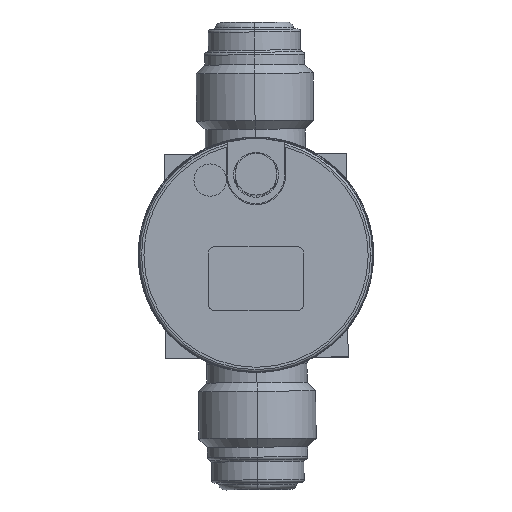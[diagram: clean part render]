
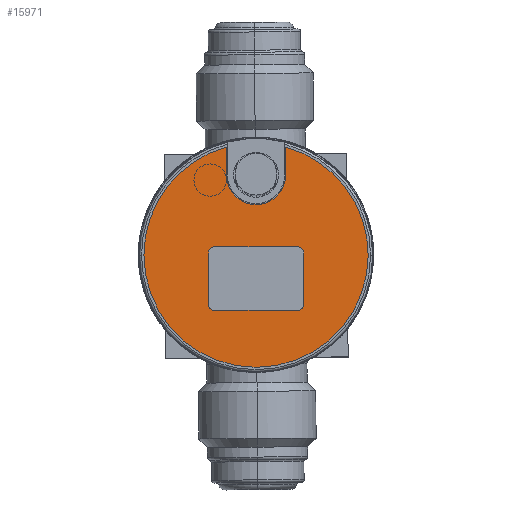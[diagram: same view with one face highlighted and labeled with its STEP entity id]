
A CAD part, top view. The second image highlights one B-rep face of the part: STEP entity #15971.
In plain terms, the highlighted planar face has unit normal (0, 0, 1).
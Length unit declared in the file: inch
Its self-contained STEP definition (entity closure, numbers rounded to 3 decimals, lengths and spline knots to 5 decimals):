
#663 = FACE_BOUND ( 'NONE', #19620, .T. ) ;
#672 = FACE_OUTER_BOUND ( 'NONE', #19600, .T. ) ;
#1140 = CARTESIAN_POINT ( 'NONE',  ( -0.228, 0.01, 0.193 ) ) ;
#1141 = CARTESIAN_POINT ( 'NONE',  ( 0.1425, 0.385, 0.193 ) ) ;
#1143 = CARTESIAN_POINT ( 'NONE',  ( -0.1425, 0.51827, 0.193 ) ) ;
#1147 = CARTESIAN_POINT ( 'NONE',  ( -0.198, -0.265, 0.193 ) ) ;
#1156 = CARTESIAN_POINT ( 'NONE',  ( 0.5375, 0., 0.193 ) ) ;
#1164 = CARTESIAN_POINT ( 'NONE',  ( 0.198, 0.04, 0.193 ) ) ;
#1166 = CARTESIAN_POINT ( 'NONE',  ( 0.228, 0.01, 0.193 ) ) ;
#1168 = CARTESIAN_POINT ( 'NONE',  ( 0.1425, 0.51827, 0.193 ) ) ;
#1171 = CARTESIAN_POINT ( 'NONE',  ( 0.198, -0.265, 0.193 ) ) ;
#1190 = CARTESIAN_POINT ( 'NONE',  ( -0.228, -0.235, 0.193 ) ) ;
#1193 = CARTESIAN_POINT ( 'NONE',  ( -0.1425, 0.385, 0.193 ) ) ;
#1202 = CARTESIAN_POINT ( 'NONE',  ( -0.198, 0.04, 0.193 ) ) ;
#1223 = CARTESIAN_POINT ( 'NONE',  ( -0.5375, 0., 0.193 ) ) ;
#1240 = CARTESIAN_POINT ( 'NONE',  ( 0.228, -0.235, 0.193 ) ) ;
#5706 = AXIS2_PLACEMENT_3D ( 'NONE', #31262, #31270, #31230 ) ;
#5718 = AXIS2_PLACEMENT_3D ( 'NONE', #31311, #31313, #31314 ) ;
#5719 = AXIS2_PLACEMENT_3D ( 'NONE', #31155, #31169, #31177 ) ;
#5741 = AXIS2_PLACEMENT_3D ( 'NONE', #31091, #31086, #31082 ) ;
#5743 = AXIS2_PLACEMENT_3D ( 'NONE', #31179, #31205, #31221 ) ;
#5761 = AXIS2_PLACEMENT_3D ( 'NONE', #31335, #31298, #31329 ) ;
#5781 = AXIS2_PLACEMENT_3D ( 'NONE', #31526, #31563, #31593 ) ;
#5782 = AXIS2_PLACEMENT_3D ( 'NONE', #31519, #31510, #31520 ) ;
#7078 = DIRECTION ( 'NONE',  ( 1., 0., 0. ) ) ;
#7106 = CARTESIAN_POINT ( 'NONE',  ( 0., 0., 0.193 ) ) ;
#7107 = DIRECTION ( 'NONE',  ( 0., 0., 1. ) ) ;
#7110 = PLANE ( 'NONE',  #30950 ) ;
#15971 = ADVANCED_FACE ( 'NONE', ( #663, #672 ), #7110, .T. ) ;
#17585 = EDGE_CURVE ( 'NONE', #19731, #19748, #19930, .T. ) ;
#17588 = EDGE_CURVE ( 'NONE', #19758, #19737, #19928, .T. ) ;
#17609 = EDGE_CURVE ( 'NONE', #19740, #19761, #19939, .T. ) ;
#17615 = EDGE_CURVE ( 'NONE', #19737, #19785, #19961, .T. ) ;
#17620 = EDGE_CURVE ( 'NONE', #19741, #19775, #19985, .T. ) ;
#17623 = EDGE_CURVE ( 'NONE', #19723, #19787, #19942, .T. ) ;
#17625 = EDGE_CURVE ( 'NONE', #19752, #19741, #19944, .T. ) ;
#17647 = EDGE_CURVE ( 'NONE', #19734, #19735, #20049, .T. ) ;
#17654 = EDGE_CURVE ( 'NONE', #19748, #19752, #20047, .T. ) ;
#17691 = EDGE_CURVE ( 'NONE', #19785, #19731, #20024, .T. ) ;
#17694 = EDGE_CURVE ( 'NONE', #19787, #19740, #19997, .T. ) ;
#17704 = EDGE_CURVE ( 'NONE', #19775, #19758, #20016, .T. ) ;
#17729 = EDGE_CURVE ( 'NONE', #19735, #19761, #20014, .T. ) ;
#17737 = EDGE_CURVE ( 'NONE', #19723, #19734, #20099, .T. ) ;
#18622 = ORIENTED_EDGE ( 'NONE', *, *, #17647, .F. ) ;
#18682 = ORIENTED_EDGE ( 'NONE', *, *, #17737, .F. ) ;
#18684 = ORIENTED_EDGE ( 'NONE', *, *, #17620, .F. ) ;
#18687 = ORIENTED_EDGE ( 'NONE', *, *, #17704, .F. ) ;
#18691 = ORIENTED_EDGE ( 'NONE', *, *, #17615, .F. ) ;
#18696 = ORIENTED_EDGE ( 'NONE', *, *, #17654, .F. ) ;
#18697 = ORIENTED_EDGE ( 'NONE', *, *, #17588, .F. ) ;
#18706 = ORIENTED_EDGE ( 'NONE', *, *, #17623, .T. ) ;
#18707 = ORIENTED_EDGE ( 'NONE', *, *, #17585, .F. ) ;
#18716 = ORIENTED_EDGE ( 'NONE', *, *, #17729, .F. ) ;
#18728 = ORIENTED_EDGE ( 'NONE', *, *, #17625, .F. ) ;
#18731 = ORIENTED_EDGE ( 'NONE', *, *, #17694, .T. ) ;
#18732 = ORIENTED_EDGE ( 'NONE', *, *, #17609, .T. ) ;
#18735 = ORIENTED_EDGE ( 'NONE', *, *, #17691, .F. ) ;
#19600 = EDGE_LOOP ( 'NONE', ( #18716, #18622, #18682, #18706, #18731, #18732 ) ) ;
#19620 = EDGE_LOOP ( 'NONE', ( #18696, #18707, #18735, #18691, #18697, #18687, #18684, #18728 ) ) ;
#19723 = VERTEX_POINT ( 'NONE', #1143 ) ;
#19731 = VERTEX_POINT ( 'NONE', #1140 ) ;
#19734 = VERTEX_POINT ( 'NONE', #1193 ) ;
#19735 = VERTEX_POINT ( 'NONE', #1141 ) ;
#19737 = VERTEX_POINT ( 'NONE', #1164 ) ;
#19740 = VERTEX_POINT ( 'NONE', #1156 ) ;
#19741 = VERTEX_POINT ( 'NONE', #1171 ) ;
#19748 = VERTEX_POINT ( 'NONE', #1190 ) ;
#19752 = VERTEX_POINT ( 'NONE', #1147 ) ;
#19758 = VERTEX_POINT ( 'NONE', #1166 ) ;
#19761 = VERTEX_POINT ( 'NONE', #1168 ) ;
#19775 = VERTEX_POINT ( 'NONE', #1240 ) ;
#19785 = VERTEX_POINT ( 'NONE', #1202 ) ;
#19787 = VERTEX_POINT ( 'NONE', #1223 ) ;
#19928 = CIRCLE ( 'NONE', #5741, 0.03 ) ;
#19930 = LINE ( 'NONE', #31043, #19978 ) ;
#19939 = CIRCLE ( 'NONE', #5743, 0.5375 ) ;
#19940 = VECTOR ( 'NONE', #31201, 39.37008 ) ;
#19942 = CIRCLE ( 'NONE', #5706, 0.5375 ) ;
#19944 = LINE ( 'NONE', #31149, #19956 ) ;
#19956 = VECTOR ( 'NONE', #31154, 39.37008 ) ;
#19961 = LINE ( 'NONE', #31163, #19940 ) ;
#19978 = VECTOR ( 'NONE', #30975, 39.37008 ) ;
#19985 = CIRCLE ( 'NONE', #5719, 0.03 ) ;
#19997 = CIRCLE ( 'NONE', #5781, 0.5375 ) ;
#20014 = LINE ( 'NONE', #31684, #20026 ) ;
#20016 = LINE ( 'NONE', #31599, #20040 ) ;
#20024 = CIRCLE ( 'NONE', #5782, 0.03 ) ;
#20026 = VECTOR ( 'NONE', #31695, 39.37008 ) ;
#20040 = VECTOR ( 'NONE', #31567, 39.37008 ) ;
#20047 = CIRCLE ( 'NONE', #5718, 0.03 ) ;
#20049 = CIRCLE ( 'NONE', #5761, 0.1425 ) ;
#20074 = VECTOR ( 'NONE', #31681, 39.37008 ) ;
#20099 = LINE ( 'NONE', #31678, #20074 ) ;
#30950 = AXIS2_PLACEMENT_3D ( 'NONE', #7106, #7107, #7078 ) ;
#30975 = DIRECTION ( 'NONE',  ( 0., -1., 0. ) ) ;
#31043 = CARTESIAN_POINT ( 'NONE',  ( -0.228, 0.01, 0.193 ) ) ;
#31082 = DIRECTION ( 'NONE',  ( -1., 0., 0. ) ) ;
#31086 = DIRECTION ( 'NONE',  ( 0., 0., 1. ) ) ;
#31091 = CARTESIAN_POINT ( 'NONE',  ( 0.198, 0.01, 0.193 ) ) ;
#31149 = CARTESIAN_POINT ( 'NONE',  ( -0.198, -0.265, 0.193 ) ) ;
#31154 = DIRECTION ( 'NONE',  ( 1., 0., 0. ) ) ;
#31155 = CARTESIAN_POINT ( 'NONE',  ( 0.198, -0.235, 0.193 ) ) ;
#31163 = CARTESIAN_POINT ( 'NONE',  ( -0.198, 0.04, 0.193 ) ) ;
#31169 = DIRECTION ( 'NONE',  ( 0., 0., 1. ) ) ;
#31177 = DIRECTION ( 'NONE',  ( 1., 0., 0. ) ) ;
#31179 = CARTESIAN_POINT ( 'NONE',  ( 0., 0., 0.193 ) ) ;
#31201 = DIRECTION ( 'NONE',  ( -1., 0., 0. ) ) ;
#31205 = DIRECTION ( 'NONE',  ( 0., 0., 1. ) ) ;
#31221 = DIRECTION ( 'NONE',  ( 1., 0., 0. ) ) ;
#31230 = DIRECTION ( 'NONE',  ( 1., 0., 0. ) ) ;
#31262 = CARTESIAN_POINT ( 'NONE',  ( 0., 0., 0.193 ) ) ;
#31270 = DIRECTION ( 'NONE',  ( 0., 0., 1. ) ) ;
#31298 = DIRECTION ( 'NONE',  ( 0., 0., 1. ) ) ;
#31311 = CARTESIAN_POINT ( 'NONE',  ( -0.198, -0.235, 0.193 ) ) ;
#31313 = DIRECTION ( 'NONE',  ( 0., 0., 1. ) ) ;
#31314 = DIRECTION ( 'NONE',  ( 1., 0., 0. ) ) ;
#31329 = DIRECTION ( 'NONE',  ( 1., 0., 0. ) ) ;
#31335 = CARTESIAN_POINT ( 'NONE',  ( 0., 0.385, 0.193 ) ) ;
#31510 = DIRECTION ( 'NONE',  ( 0., 0., 1. ) ) ;
#31519 = CARTESIAN_POINT ( 'NONE',  ( -0.198, 0.01, 0.193 ) ) ;
#31520 = DIRECTION ( 'NONE',  ( 1., 0., 0. ) ) ;
#31526 = CARTESIAN_POINT ( 'NONE',  ( 0., 0., 0.193 ) ) ;
#31563 = DIRECTION ( 'NONE',  ( 0., 0., 1. ) ) ;
#31567 = DIRECTION ( 'NONE',  ( 0., 1., 0. ) ) ;
#31593 = DIRECTION ( 'NONE',  ( 1., 0., 0. ) ) ;
#31599 = CARTESIAN_POINT ( 'NONE',  ( 0.228, 0.01, 0.193 ) ) ;
#31678 = CARTESIAN_POINT ( 'NONE',  ( -0.1425, 0.51827, 0.193 ) ) ;
#31681 = DIRECTION ( 'NONE',  ( 0., -1., 0. ) ) ;
#31684 = CARTESIAN_POINT ( 'NONE',  ( 0.1425, 0.51827, 0.193 ) ) ;
#31695 = DIRECTION ( 'NONE',  ( 0., 1., 0. ) ) ;
